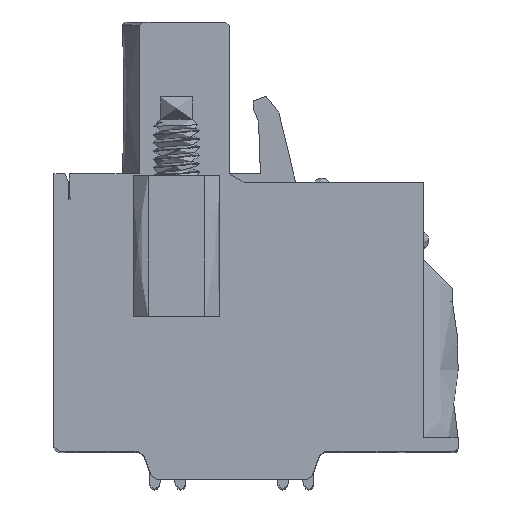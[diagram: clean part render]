
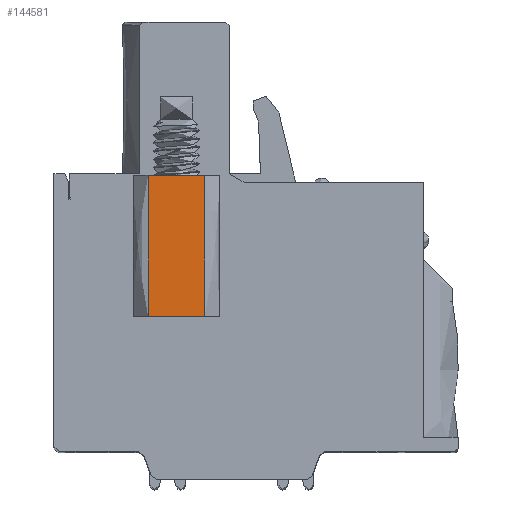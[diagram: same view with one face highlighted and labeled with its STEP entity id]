
A CAD part, top view. The second image highlights one B-rep face of the part: STEP entity #144581.
In plain terms, the highlighted free-form (B-spline) face has degree [1, 1] with [2, 2] control points.
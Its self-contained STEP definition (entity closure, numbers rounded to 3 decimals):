
#144581 = ADVANCED_FACE('',(#144582),#144595,.T.);
#144582 = FACE_BOUND('',#144583,.T.);
#144583 = EDGE_LOOP('',(#144584,#144605,#144619,#144633));
#144584 = ORIENTED_EDGE('',*,*,#144585,.F.);
#144585 = EDGE_CURVE('',#144586,#144588,#144590,.T.);
#144586 = VERTEX_POINT('',#144587);
#144587 = CARTESIAN_POINT('',(-4.95,1.3,10.16));
#144588 = VERTEX_POINT('',#144589);
#144589 = CARTESIAN_POINT('',(-1.85,1.3,10.16));
#144590 = SURFACE_CURVE('',#144591,(#144594),.PCURVE_S1.);
#144591 = B_SPLINE_CURVE_WITH_KNOTS('',1,(#144592,#144593),
  .UNSPECIFIED.,.F.,.F.,(2,2),(0.,1.),.PIECEWISE_BEZIER_KNOTS.);
#144592 = CARTESIAN_POINT('',(-4.95,1.3,10.16));
#144593 = CARTESIAN_POINT('',(-1.85,1.3,10.16));
#144594 = PCURVE('',#144595,#144600);
#144595 = B_SPLINE_SURFACE_WITH_KNOTS('',1,1,(
    (#144596,#144597)
    ,(#144598,#144599
    )),.UNSPECIFIED.,.F.,.F.,.F.,(2,2),(2,2),(0.,1.),(0.,1.),
  .PIECEWISE_BEZIER_KNOTS.);
#144596 = CARTESIAN_POINT('',(-18.561,-19.211,10.16));
#144597 = CARTESIAN_POINT('',(-18.561,6.411,10.16));
#144598 = CARTESIAN_POINT('',(7.061,-19.211,10.16));
#144599 = CARTESIAN_POINT('',(7.061,6.411,10.16));
#144600 = DEFINITIONAL_REPRESENTATION('',(#144601),#144604);
#144601 = B_SPLINE_CURVE_WITH_KNOTS('',1,(#144602,#144603),
  .UNSPECIFIED.,.F.,.F.,(2,2),(0.,1.),.PIECEWISE_BEZIER_KNOTS.);
#144602 = CARTESIAN_POINT('',(0.531,0.801));
#144603 = CARTESIAN_POINT('',(0.652,0.801));
#144604 = ( GEOMETRIC_REPRESENTATION_CONTEXT(2) 
PARAMETRIC_REPRESENTATION_CONTEXT() REPRESENTATION_CONTEXT('2D SPACE',''
  ) );
#144605 = ORIENTED_EDGE('',*,*,#144606,.F.);
#144606 = EDGE_CURVE('',#144607,#144586,#144609,.T.);
#144607 = VERTEX_POINT('',#144608);
#144608 = CARTESIAN_POINT('',(-4.95,-6.4,10.16));
#144609 = SURFACE_CURVE('',#144610,(#144613),.PCURVE_S1.);
#144610 = B_SPLINE_CURVE_WITH_KNOTS('',1,(#144611,#144612),
  .UNSPECIFIED.,.F.,.F.,(2,2),(0.,1.),.PIECEWISE_BEZIER_KNOTS.);
#144611 = CARTESIAN_POINT('',(-4.95,-6.4,10.16));
#144612 = CARTESIAN_POINT('',(-4.95,1.3,10.16));
#144613 = PCURVE('',#144595,#144614);
#144614 = DEFINITIONAL_REPRESENTATION('',(#144615),#144618);
#144615 = B_SPLINE_CURVE_WITH_KNOTS('',1,(#144616,#144617),
  .UNSPECIFIED.,.F.,.F.,(2,2),(0.,1.),.PIECEWISE_BEZIER_KNOTS.);
#144616 = CARTESIAN_POINT('',(0.531,0.5));
#144617 = CARTESIAN_POINT('',(0.531,0.801));
#144618 = ( GEOMETRIC_REPRESENTATION_CONTEXT(2) 
PARAMETRIC_REPRESENTATION_CONTEXT() REPRESENTATION_CONTEXT('2D SPACE',''
  ) );
#144619 = ORIENTED_EDGE('',*,*,#144620,.F.);
#144620 = EDGE_CURVE('',#144621,#144607,#144623,.T.);
#144621 = VERTEX_POINT('',#144622);
#144622 = CARTESIAN_POINT('',(-1.85,-6.4,10.16));
#144623 = SURFACE_CURVE('',#144624,(#144627),.PCURVE_S1.);
#144624 = B_SPLINE_CURVE_WITH_KNOTS('',1,(#144625,#144626),
  .UNSPECIFIED.,.F.,.F.,(2,2),(0.,1.),.PIECEWISE_BEZIER_KNOTS.);
#144625 = CARTESIAN_POINT('',(-1.85,-6.4,10.16));
#144626 = CARTESIAN_POINT('',(-4.95,-6.4,10.16));
#144627 = PCURVE('',#144595,#144628);
#144628 = DEFINITIONAL_REPRESENTATION('',(#144629),#144632);
#144629 = B_SPLINE_CURVE_WITH_KNOTS('',1,(#144630,#144631),
  .UNSPECIFIED.,.F.,.F.,(2,2),(0.,1.),.PIECEWISE_BEZIER_KNOTS.);
#144630 = CARTESIAN_POINT('',(0.652,0.5));
#144631 = CARTESIAN_POINT('',(0.531,0.5));
#144632 = ( GEOMETRIC_REPRESENTATION_CONTEXT(2) 
PARAMETRIC_REPRESENTATION_CONTEXT() REPRESENTATION_CONTEXT('2D SPACE',''
  ) );
#144633 = ORIENTED_EDGE('',*,*,#144634,.T.);
#144634 = EDGE_CURVE('',#144621,#144588,#144635,.T.);
#144635 = SURFACE_CURVE('',#144636,(#144639),.PCURVE_S1.);
#144636 = B_SPLINE_CURVE_WITH_KNOTS('',1,(#144637,#144638),
  .UNSPECIFIED.,.F.,.F.,(2,2),(0.,1.),.PIECEWISE_BEZIER_KNOTS.);
#144637 = CARTESIAN_POINT('',(-1.85,-6.4,10.16));
#144638 = CARTESIAN_POINT('',(-1.85,1.3,10.16));
#144639 = PCURVE('',#144595,#144640);
#144640 = DEFINITIONAL_REPRESENTATION('',(#144641),#144644);
#144641 = B_SPLINE_CURVE_WITH_KNOTS('',1,(#144642,#144643),
  .UNSPECIFIED.,.F.,.F.,(2,2),(0.,1.),.PIECEWISE_BEZIER_KNOTS.);
#144642 = CARTESIAN_POINT('',(0.652,0.5));
#144643 = CARTESIAN_POINT('',(0.652,0.801));
#144644 = ( GEOMETRIC_REPRESENTATION_CONTEXT(2) 
PARAMETRIC_REPRESENTATION_CONTEXT() REPRESENTATION_CONTEXT('2D SPACE',''
  ) );
